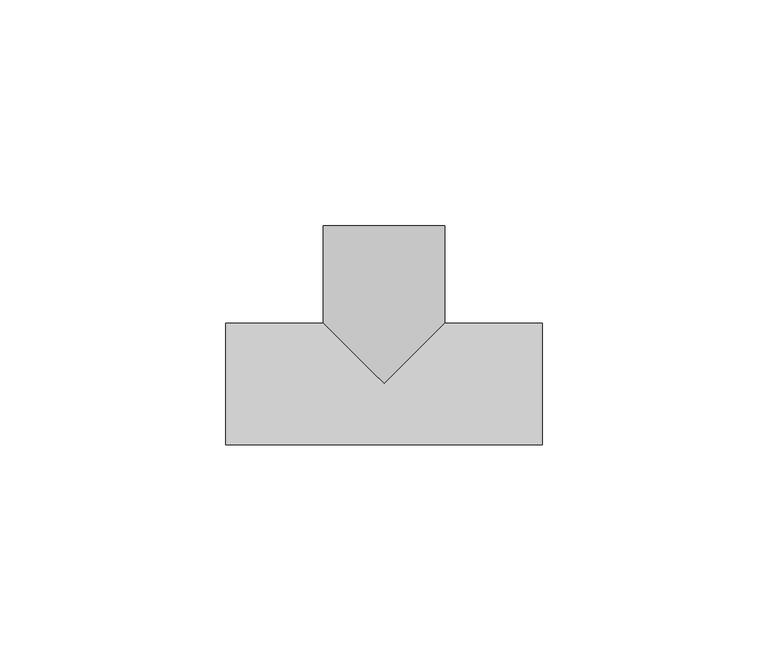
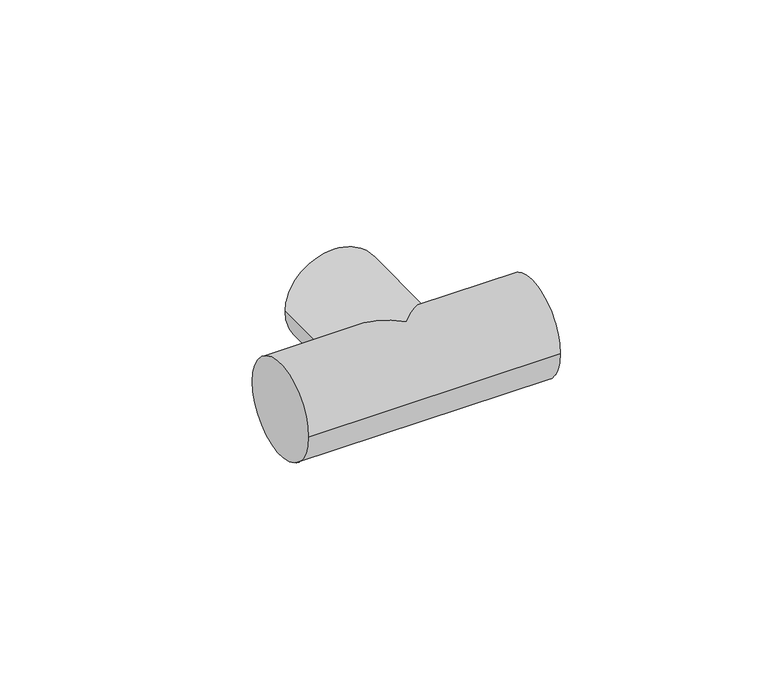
"""IFC4 building model written with IfcOpenShell, lengths in millimetres: cable carrier fitting geometry, Тройник открывающийся TIG : Тройник открывающийся TIG."""

from ifc_helpers import new_model, si_unit, frame, origin, place, context, project, spatial, circle_curve, ellipse_curve, source, transform, mapped, element, save
from ifc_brep_helpers import plane_surface, cylinder_surface, advanced_brep


def cable_carrier_fitting_f114ceb8(model_context):
    return source(origin(), model_context, "Body", "AdvancedBrep", [
        advanced_brep(
        [(35.0, -13.5, 0.0), (35.0, 13.5, 0.0), (-35.0, -13.5, 0.0), (-35.0, 13.5, 0.0), (-13.5, 13.5, 0.0), (0.0, 0.0, -13.5), (13.5, 13.5, 0.0), (0.0, 0.0, 13.5), (-13.5, 35.0, 0.0), (13.5, 35.0, 0.0)],
        [
            (0, 1, circle_curve(frame((35.0, 0.0, 0.0), z_axis=(1.0, 0.0, 0.0), x_axis=(0.0, 1.0, 0.0)), 13.5)),
            (1, 0, circle_curve(frame((35.0, 0.0, 0.0), z_axis=(1.0, 0.0, 0.0), x_axis=(0.0, 1.0, 0.0)), 13.5)),
            (2, 3, circle_curve(frame((-35.0, 0.0, 0.0), z_axis=(-1.0, 0.0, 0.0), x_axis=(0.0, 1.0, 0.0)), 13.5)),
            (3, 2, circle_curve(frame((-35.0, 0.0, 0.0), z_axis=(-1.0, 0.0, 0.0), x_axis=(0.0, 1.0, 0.0)), 13.5)),
            (0, 2),
            (3, 4),
            (4, 5, ellipse_curve(frame((0.0, 0.0, 0.0), z_axis=(-0.7071067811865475, -0.7071067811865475, 0.0), x_axis=(0.7071067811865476, -0.7071067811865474, 0.0)), 19.0918831, 13.5)),
            (5, 6, ellipse_curve(frame((0.0, 0.0, 0.0), z_axis=(0.7071067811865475, -0.7071067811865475, 0.0), x_axis=(0.7071067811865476, 0.7071067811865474, 0.0)), 19.0918831, 13.5)),
            (6, 1),
            (6, 7, ellipse_curve(frame((0.0, 0.0, 0.0), z_axis=(0.7071067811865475, -0.7071067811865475, 0.0), x_axis=(0.7071067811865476, 0.7071067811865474, 0.0)), 19.0918831, 13.5)),
            (7, 4, ellipse_curve(frame((0.0, 0.0, 0.0), z_axis=(-0.7071067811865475, -0.7071067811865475, 0.0), x_axis=(0.7071067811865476, -0.7071067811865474, 0.0)), 19.0918831, 13.5)),
            (8, 9, circle_curve(frame((0.0, 35.0, 0.0), z_axis=(0.0, 1.0, 0.0), x_axis=(0.9999999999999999, 0.0, 0.0)), 13.5)),
            (9, 8, circle_curve(frame((0.0, 35.0, 0.0), z_axis=(0.0, 1.0, 0.0), x_axis=(0.9999999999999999, 0.0, 0.0)), 13.5)),
            (9, 6),
            (4, 8),
        ],
        [
            plane_surface(frame((35.0, 13.5, 0.0), z_axis=(0.9999999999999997, 0.0, 0.0), x_axis=(0.0, 0.0, 0.9999999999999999))),
            plane_surface(frame((-35.0, 13.5, 0.0), z_axis=(-0.9999999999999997, 0.0, 0.0), x_axis=(0.0, 0.0, -0.9999999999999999))),
            cylinder_surface(frame((-35.0, 0.0, 0.0), z_axis=(0.9999999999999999, 0.0, 0.0), x_axis=(0.0, 1.0, 0.0)), 13.5),
            plane_surface(frame((13.5, 35.0, 0.0), z_axis=(0.0, 0.9999999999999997, 0.0), x_axis=(0.0, 0.0, -0.9999999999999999))),
            cylinder_surface(frame((0.0, 35.0, 0.0), z_axis=(0.0, -0.9999999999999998, 0.0), x_axis=(0.9999999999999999, 0.0, 0.0)), 13.5),
        ],
        [
            (0, [[1, 2]]),
            (1, [[3, 4]]),
            (2, [[-1, 5, -4, 6, 7, 8, 9]]),
            (2, [[-2, -9, 10, 11, -6, -3, -5]]),
            (3, [[12, 13]]),
            (4, [[-13, 14, -8, -7, 15]]),
            (4, [[-12, -15, -11, -10, -14]]),
        ],
    ),
    ])


if __name__ == "__main__":
    model = new_model("IFC4")
    model_context = context("Model", 3, world=origin())
    ifc_project = project(units=[si_unit("LENGTHUNIT", "METRE", prefix="MILLI")], contexts=[model_context])
    site = spatial("IfcSite", under=ifc_project)
    building = spatial("IfcBuilding", under=site)
    placement = place(None, origin())
    cable_carrier_fitting_shape = cable_carrier_fitting_f114ceb8(model_context)
    element("IfcCableCarrierFitting", 1, ObjectType="Тройник открывающийся TIG : Тройник открывающийся TIG", at=placement, inside=building, context=model_context, shape_type="MappedRepresentation", body=[
        mapped(cable_carrier_fitting_shape, transform((0.0, 0.0, 0.0), x_axis=(1.0, 0.0, 0.0), y_axis=(0.0, 1.0, 0.0), z_axis=(0.0, 0.0, 1.0))),
    ])
    save(model, "model.ifc")
